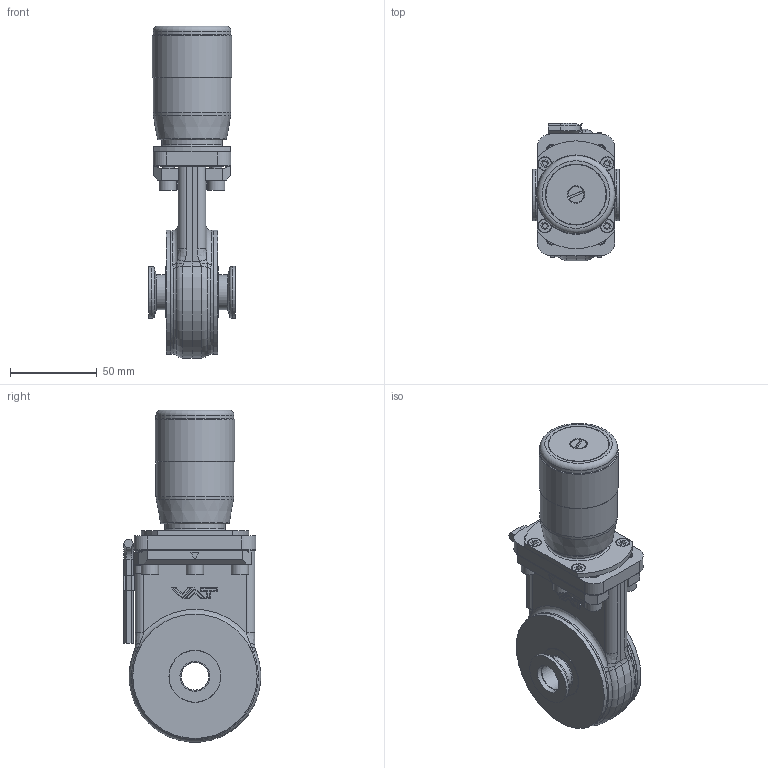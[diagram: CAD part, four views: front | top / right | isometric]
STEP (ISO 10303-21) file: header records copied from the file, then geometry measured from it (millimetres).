
FILE_DESCRIPTION(/* description */ (''),/* implementation_level */ '2;1');
FILE_NAME(/* name */ '1336923440_203.stp',/* time_stamp */ '2013-09-10T11:36:06+02:00',/* author */ (''),/* organization */ (''),/* preprocessor_version */ 'ST-DEVELOPER v11',/* originating_system */ 'SIEMENS PLM Software NX 7.5',/* authorisation */ '');
FILE_SCHEMA (('AP203_CONFIGURATION_CONTROLLED_3D_DESIGN_OF_MECHANICAL_PARTS_AND_ASSEMBLIES_MIM_LF'));
Length unit declared in the file: millimetre
Products named in the file (20): 63150-01_17991ID; 63150-01_17990ID; 63172-01; 69852-01; 431765; 204751.1; n-6011-473.1; 66230-01.2; n-6013-444.1; 63194-01.2; 66228-01.3; 63152-01.4; 228772.1; 69968-01.1; 73280-01_1.1; 65209-01.2; 318865_MODEL; 63170-r1_MODEL; 68608-r1.7_MASSBILD; 431740
Assembly tree (29 placements, depth 5):
  431740
    65209-01.2
    73280-01_1.1
    69968-01.1
    228772.1  x6
    63152-01.4
    66228-01.3
    63194-01.2
    n-6013-444.1  x4
    66230-01.2
    n-6011-473.1
    68608-r1.7_MASSBILD
      63170-r1_MODEL
        318865_MODEL
          63150-01_17990ID
          63150-01_17991ID
      69852-01
      63172-01
    204751.1  x2
    431765  x2
Bounding box: 50 x 79.41 x 191.69 mm (x, y, z)
Volume: 188327.1 mm3; surface area: 123683 mm2
Topology: 40 solids, 40 shells, 757 faces, 1799 edges, 1155 vertices
Faces by surface type: plane 414, cylinder 193, cone 58, bspline 57, torus 35
Full cylindrical faces by diameter (mm): 3.4 x2, 4 x8, 4.16 x1, 4.2 x1, 4.25 x4, 4.96 x6, 5 x7, 5.25 x1, 5.95 x2, 6 x18, 6.2 x10, 6.95 x2, 7.5 x4, 9.85 x1, 10 x6, 16 x2, 17.3 x2, 20 x2, 20.75 x1, 24.7 x2, 25.1 x2, 29.9 x2, 29.975 x2, 30.035 x2, 33.075 x1, 34.75 x1, 35.1 x1, 35.25 x2, 39.1 x1, 45 x2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
Entity records: 27577 total; most frequent: CARTESIAN_POINT 10222, DIRECTION 2727, ORIENTED_EDGE 2650, EDGE_CURVE 1325, AXIS2_PLACEMENT_3D 977, VERTEX_POINT 920, EDGE_LOOP 796, LINE 773
